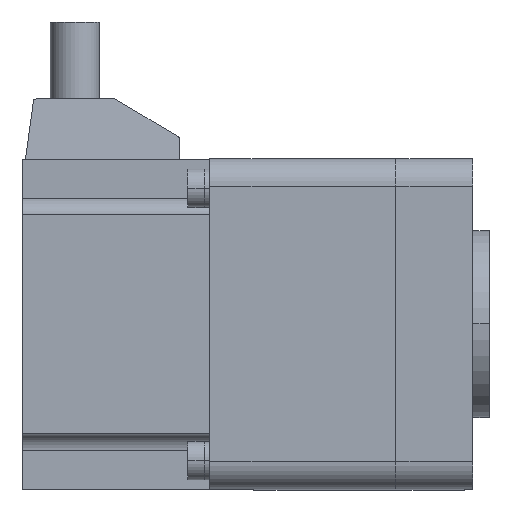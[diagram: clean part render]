
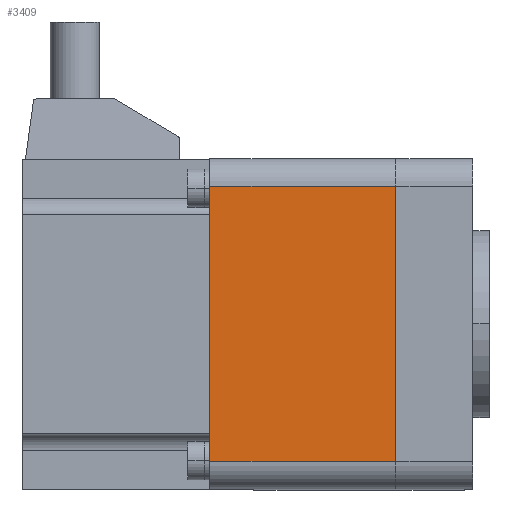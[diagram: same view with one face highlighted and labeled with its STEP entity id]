
A CAD part, top view. The second image highlights one B-rep face of the part: STEP entity #3409.
In plain terms, the highlighted planar face has unit normal (0, 0, 1).
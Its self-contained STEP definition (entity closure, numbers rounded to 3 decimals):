
#3337=CARTESIAN_POINT('POINT236058',(-17.,25.,
   30.));
#3338=VERTEX_POINT('VERTEX236058',#3337);
#3339=CARTESIAN_POINT('POINT236059',(-50.8,25.,30.));
#3340=VERTEX_POINT('VERTEX236059',#3339);
#3341=CARTESIAN_POINT('POS402521',(-17.,25.,30.
   ));
#3342=DIRECTION('DIR584897',(-1.,0.,0.));
#3343=VECTOR('VEC220145',#3342,1.);
#3344=LINE('STRAIGHT220145',#3341,#3343);
#3345=EDGE_CURVE('EDGE365159',#3338,#3340,#3344,.T.);
#3379=CARTESIAN_POINT('POINT236062',(-17.,-25.,30.));
#3380=VERTEX_POINT('VERTEX236062',#3379);
#3381=CARTESIAN_POINT('POINT236063',(-50.8,-25.,
   30.));
#3382=VERTEX_POINT('VERTEX236063',#3381);
#3383=CARTESIAN_POINT('POS402526',(-17.,-25.,30.));
#3384=DIRECTION('DIR584905',(-1.,0.,0.));
#3385=VECTOR('VEC220147',#3384,1.);
#3386=LINE('STRAIGHT220147',#3383,#3385);
#3387=EDGE_CURVE('EDGE365163',#3380,#3382,#3386,.T.);
#3388=ORIENTED_EDGE('COEDGE730455',*,*,#3387,.F.);
#3389=CARTESIAN_POINT('POS402527',(-17.,25.,30.));
#3390=DIRECTION('DIR584906',(0.,-1.,0.));
#3391=VECTOR('VEC220148',#3390,1.);
#3392=LINE('STRAIGHT220148',#3389,#3391);
#3393=EDGE_CURVE('EDGE365164',#3338,#3380,#3392,.T.);
#3394=ORIENTED_EDGE('COEDGE730456',*,*,#3393,.F.);
#3395=ORIENTED_EDGE('COEDGE730457',*,*,#3345,.T.);
#3396=CARTESIAN_POINT('POS402528',(-50.8,-25.,30.));
#3397=DIRECTION('DIR584907',(0.,-1.,0.))
   ;
#3398=VECTOR('VEC220149',#3397,1.);
#3399=LINE('STRAIGHT220149',#3396,#3398);
#3400=EDGE_CURVE('EDGE365165',#3340,#3382,#3399,.T.);
#3401=ORIENTED_EDGE('COEDGE730458',*,*,#3400,.T.);
#3402=EDGE_LOOP('NONE',(#3388,#3394,#3395,#3401));
#3403=FACE_BOUND('LOOP1',#3402,.T.);
#3404=CARTESIAN_POINT('POS402529',(-17.,25.,30.
   ));
#3405=DIRECTION('DIR584908',(0.,0.,1.));
#3406=DIRECTION('DIR584909',(1.,0.,0.));
#3407=AXIS2_PLACEMENT_3D('AXIS182380',#3404,#3405,#3406);
#3408=PLANE('PLANE75537',#3407);
#3409=ADVANCED_FACE('FACE141722',(#3403),#3408,.T.);
